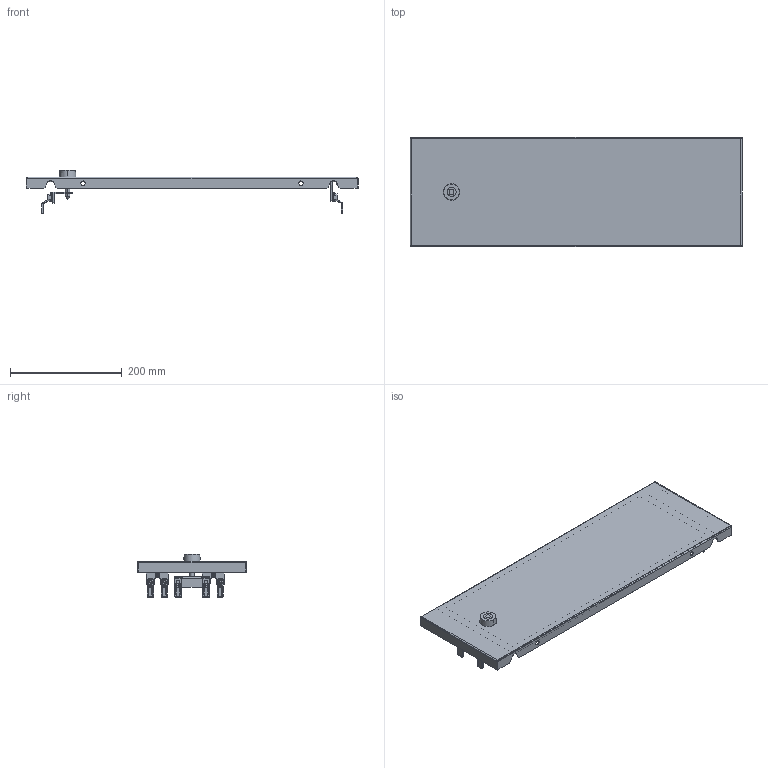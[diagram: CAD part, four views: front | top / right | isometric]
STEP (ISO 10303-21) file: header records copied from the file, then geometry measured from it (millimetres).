
FILE_DESCRIPTION(('CAx-IF Rec.Pracs.---Model Styling and Organization---1.2---2011-12-15','CAx-IF Rec.Pracs.---Geometric and Assembly Validation Properties---4.1---2014-06-16','CAx-IF Rec.Pracs.---PMI Polyline Presentation---2.0---2013-05-24'),'2;1');
FILE_NAME('R5M2WCPME4M.stp','2021-05-05T13:00:42+03:00',(''),(''),'STEP Interface 4.4 by CT CoreTechnologie','3D_Evolution4.4 by CT CoreTechnologie','');
FILE_SCHEMA(('AUTOMOTIVE_DESIGN { 1 0 10303 214 1 1 1 1 }'));
Length unit declared in the file: millimetre
Products named in the file (15): R5M2WCPME4M; AC00C745; MS737-1-1; MS737-1-1 Z_ ªàëâ; MS737-1-1 stop_fixed; RB.0687.00.00.1_-00; RB.1586.00.00.0 ÑÁ_-00 (R5M2WCPME4M); RB.1586.00.01.0_-00 (R5M2WCPME4M); PF 7x14 MCC2.0_0200x0600; AC00C266; Ì6õ12-A5100231_straight; AC00C061_AC00C061; AC00C485; M6 x 16-DIN 7991 ISR_thread; RB.0116.00.00.2_-00
Assembly tree (27 placements, depth 3):
  R5M2WCPME4M
    AC00C745  x2
    MS737-1-1
      MS737-1-1 Z_ ªàëâ
      MS737-1-1 stop_fixed
    RB.0687.00.00.1_-00
    RB.1586.00.00.0 ÑÁ_-00 (R5M2WCPME4M)
      RB.1586.00.01.0_-00 (R5M2WCPME4M)
      PF 7x14 MCC2.0_0200x0600
      AC00C266  x2
      Ì6õ12-A5100231_straight
      AC00C061_AC00C061
    AC00C485  x6
    M6 x 16-DIN 7991 ISR_thread  x6
    RB.0116.00.00.2_-00  x2
Bounding box: 594 x 195 x 77.45 mm (x, y, z)
Surface area: 380961.5 mm2 (no closed solid volume)
Topology: 0 solids, 39 shells, 1210 faces, 2996 edges, 1846 vertices
Faces by surface type: plane 489, cylinder 467, bspline 254
Entity records: 20793 total; most frequent: CARTESIAN_POINT 6475, ORIENTED_EDGE 2830, DIRECTION 2800, EDGE_CURVE 1415, AXIS2_PLACEMENT_3D 977, VERTEX_POINT 898, VECTOR 846, LINE 846
